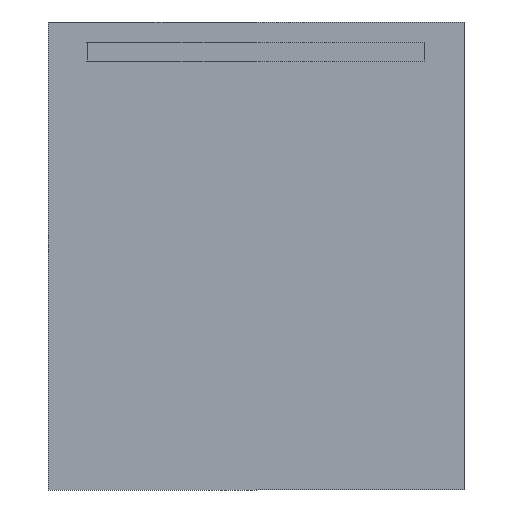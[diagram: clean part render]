
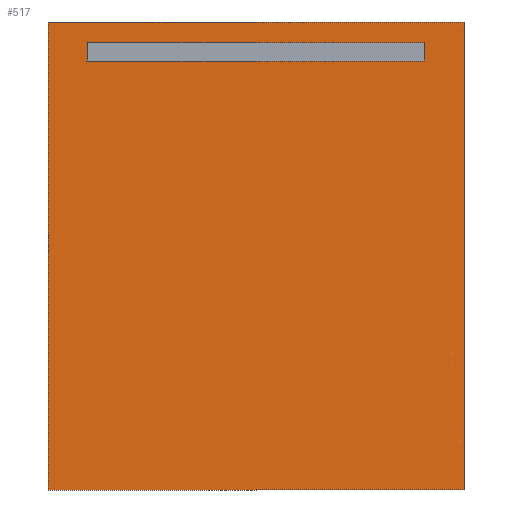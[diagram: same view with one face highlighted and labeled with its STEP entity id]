
A CAD part, front view. The second image highlights one B-rep face of the part: STEP entity #517.
In plain terms, the highlighted planar face has unit normal (0, -1, 0).
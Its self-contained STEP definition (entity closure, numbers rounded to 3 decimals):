
#47=FACE_BOUND('',#92,.T.);
#62=FACE_OUTER_BOUND('',#91,.T.);
#91=EDGE_LOOP('',(#359,#360,#361,#362));
#92=EDGE_LOOP('',(#363,#364,#365,#366));
#115=LINE('',#766,#159);
#119=LINE('',#774,#163);
#122=LINE('',#780,#166);
#125=LINE('',#785,#169);
#127=LINE('',#791,#171);
#131=LINE('',#799,#175);
#134=LINE('',#805,#178);
#137=LINE('',#810,#181);
#159=VECTOR('',#614,10.);
#163=VECTOR('',#620,10.);
#166=VECTOR('',#625,10.);
#169=VECTOR('',#630,10.);
#171=VECTOR('',#636,10.);
#175=VECTOR('',#642,10.);
#178=VECTOR('',#647,10.);
#181=VECTOR('',#652,10.);
#203=VERTEX_POINT('',#764);
#204=VERTEX_POINT('',#765);
#207=VERTEX_POINT('',#773);
#209=VERTEX_POINT('',#779);
#211=VERTEX_POINT('',#789);
#212=VERTEX_POINT('',#790);
#215=VERTEX_POINT('',#798);
#217=VERTEX_POINT('',#804);
#251=EDGE_CURVE('',#203,#204,#115,.T.);
#255=EDGE_CURVE('',#207,#203,#119,.T.);
#258=EDGE_CURVE('',#209,#207,#122,.T.);
#261=EDGE_CURVE('',#204,#209,#125,.T.);
#263=EDGE_CURVE('',#211,#212,#127,.T.);
#267=EDGE_CURVE('',#215,#211,#131,.T.);
#270=EDGE_CURVE('',#217,#215,#134,.T.);
#273=EDGE_CURVE('',#212,#217,#137,.T.);
#359=ORIENTED_EDGE('',*,*,#273,.F.);
#360=ORIENTED_EDGE('',*,*,#263,.F.);
#361=ORIENTED_EDGE('',*,*,#267,.F.);
#362=ORIENTED_EDGE('',*,*,#270,.F.);
#363=ORIENTED_EDGE('',*,*,#251,.T.);
#364=ORIENTED_EDGE('',*,*,#261,.T.);
#365=ORIENTED_EDGE('',*,*,#258,.T.);
#366=ORIENTED_EDGE('',*,*,#255,.T.);
#465=PLANE('',#567);
#517=ADVANCED_FACE('',(#62,#47),#465,.F.);
#567=AXIS2_PLACEMENT_3D('',#813,#656,#657);
#614=DIRECTION('',(0.,0.,-1.));
#620=DIRECTION('',(1.,0.,0.));
#625=DIRECTION('',(0.,0.,1.));
#630=DIRECTION('',(-1.,0.,0.));
#636=DIRECTION('',(0.,0.,1.));
#642=DIRECTION('',(-1.,0.,0.));
#647=DIRECTION('',(0.,0.,-1.));
#652=DIRECTION('',(1.,0.,0.));
#656=DIRECTION('center_axis',(0.,1.,0.));
#657=DIRECTION('ref_axis',(0.,0.,1.));
#764=CARTESIAN_POINT('',(325.,-26.,860.));
#765=CARTESIAN_POINT('',(325.,-26.,825.));
#766=CARTESIAN_POINT('',(325.,-26.,655.));
#773=CARTESIAN_POINT('',(-325.,-26.,860.));
#774=CARTESIAN_POINT('',(-162.5,-26.,860.));
#779=CARTESIAN_POINT('',(-325.,-26.,825.));
#780=CARTESIAN_POINT('',(-325.,-26.,637.5));
#785=CARTESIAN_POINT('',(162.5,-26.,825.));
#789=CARTESIAN_POINT('',(-400.,-26.,0.));
#790=CARTESIAN_POINT('',(-400.,-26.,900.));
#791=CARTESIAN_POINT('',(-400.,-26.,0.));
#798=CARTESIAN_POINT('',(400.,-26.,0.));
#799=CARTESIAN_POINT('',(400.,-26.,0.));
#804=CARTESIAN_POINT('',(400.,-26.,900.));
#805=CARTESIAN_POINT('',(400.,-26.,900.));
#810=CARTESIAN_POINT('',(-400.,-26.,900.));
#813=CARTESIAN_POINT('Origin',(0.,-26.,450.));
